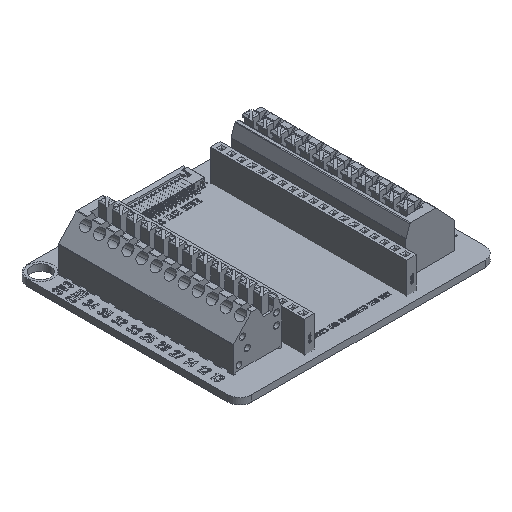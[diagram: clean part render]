
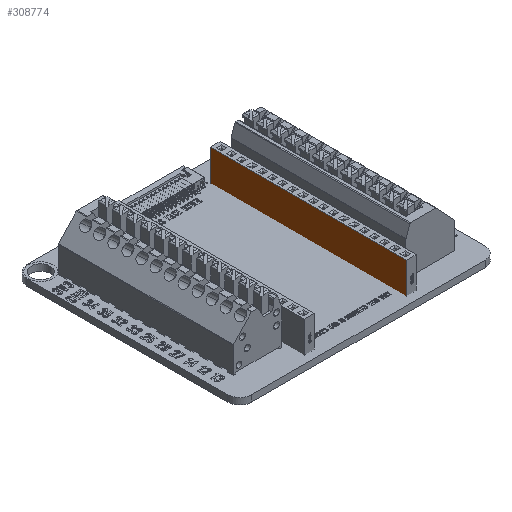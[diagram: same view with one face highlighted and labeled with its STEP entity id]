
A CAD part, isometric view. The second image highlights one B-rep face of the part: STEP entity #308774.
In plain terms, the highlighted planar face has unit normal (-1, 0, 0) as drawn and (0, 1, 0) by its records, which use the part's own axes.
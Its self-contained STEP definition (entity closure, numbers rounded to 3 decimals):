
#302290 = VERTEX_POINT('',#302291);
#302291 = CARTESIAN_POINT('',(-24.38,1.215,
    -0.8));
#302340 = VERTEX_POINT('',#302341);
#302341 = CARTESIAN_POINT('',(-24.38,1.215,
    7.7));
#302347 = EDGE_CURVE('',#302340,#302290,#302348,.T.);
#302348 = LINE('',#302349,#302350);
#302349 = CARTESIAN_POINT('',(-24.38,1.215,
    7.7));
#302350 = VECTOR('',#302351,1.);
#302351 = DIRECTION('',(-0.,-0.,-1.));
#308504 = VERTEX_POINT('',#308505);
#308505 = CARTESIAN_POINT('',(24.38,1.215,
    7.7));
#308511 = EDGE_CURVE('',#308504,#302340,#308512,.T.);
#308512 = LINE('',#308513,#308514);
#308513 = CARTESIAN_POINT('',(-24.38,1.215,
    7.7));
#308514 = VECTOR('',#308515,1.);
#308515 = DIRECTION('',(-1.,-0.,-0.));
#308711 = EDGE_CURVE('',#308712,#302290,#308714,.T.);
#308712 = VERTEX_POINT('',#308713);
#308713 = CARTESIAN_POINT('',(24.38,1.215,
    -0.8));
#308714 = LINE('',#308715,#308716);
#308715 = CARTESIAN_POINT('',(-24.38,1.215,
    -0.8));
#308716 = VECTOR('',#308717,1.);
#308717 = DIRECTION('',(-1.,-0.,-0.));
#308741 = EDGE_CURVE('',#308504,#308712,#308742,.T.);
#308742 = LINE('',#308743,#308744);
#308743 = CARTESIAN_POINT('',(24.38,1.215,
    7.7));
#308744 = VECTOR('',#308745,1.);
#308745 = DIRECTION('',(-0.,-0.,-1.));
#308774 = ADVANCED_FACE('',(#308775),#308781,.F.);
#308775 = FACE_BOUND('',#308776,.T.);
#308776 = EDGE_LOOP('',(#308777,#308778,#308779,#308780));
#308777 = ORIENTED_EDGE('',*,*,#308711,.T.);
#308778 = ORIENTED_EDGE('',*,*,#302347,.F.);
#308779 = ORIENTED_EDGE('',*,*,#308511,.F.);
#308780 = ORIENTED_EDGE('',*,*,#308741,.T.);
#308781 = PLANE('',#308782);
#308782 = AXIS2_PLACEMENT_3D('',#308783,#308784,#308785);
#308783 = CARTESIAN_POINT('',(-24.38,1.215,
    7.7));
#308784 = DIRECTION('',(0.,-1.,0.));
#308785 = DIRECTION('',(0.,0.,-1.));
